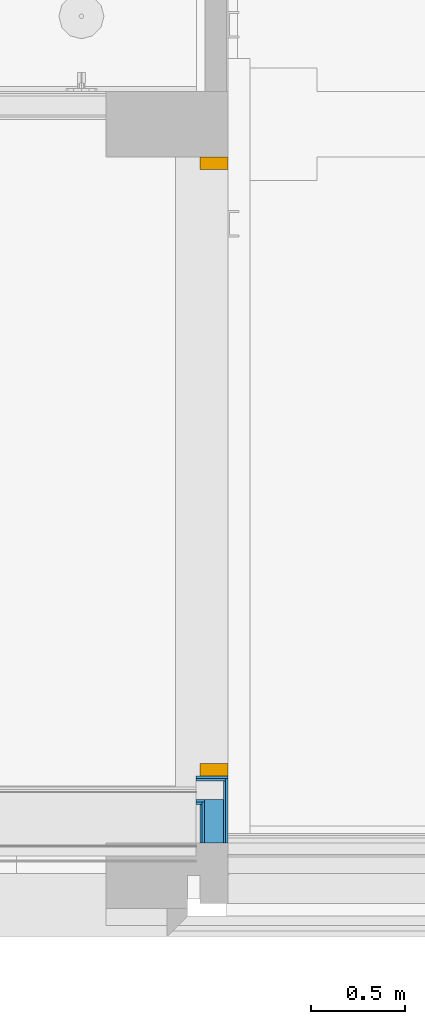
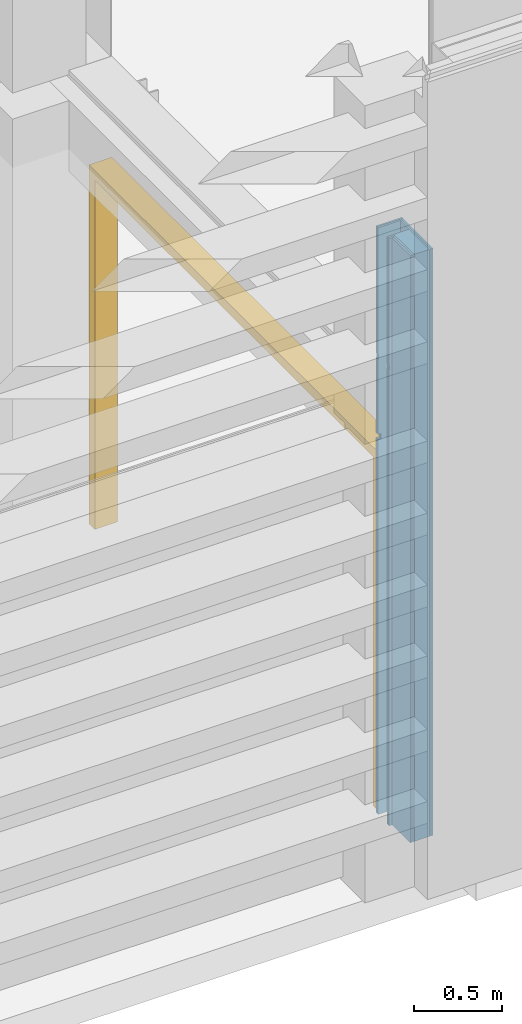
# One storey, part 77 of 109: 9 building element parts, 1 door, 1 opening, 2 elements without a shape of their own.
"""IFC2X3 building model written with IfcOpenShell, lengths in millimetres."""

from ifc_helpers import new_model, entity, si_unit, converted_unit, derived_unit, money_unit, direction, frame, origin_with_axes, place, context, subcontext, project, spatial, faceted_brep, material, type_object, element, fill, aggregate, save


model = new_model("IFC2X3")

# Units and contexts
model_context = context("Model", 3, precision=0.01, world=origin_with_axes(), true_north=direction((0.0, 1.0)))
body_context = subcontext(model_context, "Body", "Model", "MODEL_VIEW")
ifc_project = project(units=[si_unit("LENGTHUNIT", "METRE", prefix="MILLI"), si_unit("AREAUNIT", "SQUARE_METRE"), si_unit("VOLUMEUNIT", "CUBIC_METRE"), converted_unit("PLANEANGLEUNIT", "DEGREE", entity("IfcPlaneAngleMeasure", 0.0174532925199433), si_unit("PLANEANGLEUNIT", "RADIAN"), dimensions=[0, 0, 0, 0, 0, 0, 0]), money_unit("EUR"), converted_unit("TIMEUNIT", "Year", entity("IfcTimeMeasure", 31557600.0), si_unit("TIMEUNIT", "SECOND"), dimensions=[0, 0, 1, 0, 0, 0, 0]), si_unit("MASSUNIT", "GRAM", prefix="KILO"), si_unit("THERMODYNAMICTEMPERATUREUNIT", "DEGREE_CELSIUS"), si_unit("LUMINOUSINTENSITYUNIT", "LUMEN"), si_unit("ENERGYUNIT", "JOULE", prefix="MEGA"), derived_unit("THERMALCONDUCTANCEUNIT", [(si_unit("POWERUNIT", "WATT"), 1), (si_unit("LENGTHUNIT", "METRE"), -1), (si_unit("THERMODYNAMICTEMPERATUREUNIT", "KELVIN"), -1)]), derived_unit("SPECIFICHEATCAPACITYUNIT", [(si_unit("ENERGYUNIT", "JOULE"), 1), (si_unit("MASSUNIT", "GRAM", prefix="KILO"), -1), (si_unit("THERMODYNAMICTEMPERATUREUNIT", "KELVIN"), -1)]), derived_unit("MASSDENSITYUNIT", [(si_unit("MASSUNIT", "GRAM", prefix="KILO"), 1), (si_unit("VOLUMEUNIT", "CUBIC_METRE"), -1)])], contexts=[model_context])

# Site, building, storey
site_placement = place(None, origin_with_axes())
site = spatial("IfcSite", under=ifc_project, at=site_placement, Name="<site naam>", CompositionType="ELEMENT")
building_placement = place(site_placement, origin_with_axes())
building = spatial("IfcBuilding", under=site, at=building_placement, Name="<Naam gebouw>", CompositionType="ELEMENT")
storey_placement = place(building_placement, origin_with_axes())
storey = spatial("IfcBuildingStorey", under=building, at=storey_placement, Name="00 Begane grond", CompositionType="ELEMENT", Elevation=0.0)

# Door
door_style = type_object("IfcDoorStyle", Name="D1 27", ConstructionType="NOTDEFINED", OperationType="NOTDEFINED", ParameterTakesPrecedence=False, Sizeable=False)
wall_2_placement = place(storey_placement, frame((58325.00000000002, 530.0000000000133, 0.0), z_axis=(0.0, 0.0, 1.0), x_axis=(0.0, -1.0, 0.0)))
opening_placement = place(wall_2_placement, frame((-1647.5, 0.0, 0.0), z_axis=(0.0, 0.0, 1.0), x_axis=(1.0, 0.0, 0.0)))
door_placement = place(opening_placement, frame((-1580.5, 0.0, 0.0), z_axis=(0.0, 0.0, 1.0), x_axis=(1.0, 0.0, 0.0)))
door = element("IfcDoor", 1, at=door_placement, inside=storey, type_object=door_style, Name="22_BI-H-03_305", ObjectType="DOOR", OverallHeight=2487.5, OverallWidth=3295.0, context=body_context, shape_type="Brep", body=[
    faceted_brep([(3228.000000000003, 0.0, 0.0), (3228.0, -150.0000000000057, 0.0), (3161.0, -149.9999999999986, 0.0), (3161.000000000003, 0.0, 0.0), (3228.000000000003, 0.0, 2420.5), (3228.0, -150.0000000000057, 2420.5), (3161.0, -149.9999999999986, 2420.5), (3161.000000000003, 0.0, 2420.5)], [[[0, 1, 2, 3]], [[4, 5, 1, 0]], [[1, 5, 6, 2]], [[3, 2, 6, 7]], [[0, 3, 7, 4]], [[7, 6, 5, 4]]]),
    faceted_brep([(-66.9999999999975, 0.0, 0.0), (-67.00000000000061, -149.9999999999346, 0.0), (-67.00000000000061, -149.9999999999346, 2420.5), (-66.9999999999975, 0.0, 2420.5), (0.0, 0.0, 0.0), (0.0, -149.9999999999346, 0.0), (0.0, -149.9999999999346, 2420.5), (0.0, 0.0, 2420.5)], [[[0, 1, 2, 3]], [[4, 5, 1, 0]], [[1, 5, 6, 2]], [[3, 2, 6, 7]], [[0, 3, 7, 4]], [[7, 6, 5, 4]]]),
    faceted_brep([(3228.000000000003, 0.0, 2487.5), (3228.0, -150.0000000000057, 2487.5), (3228.0, -150.0000000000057, 2420.5), (3228.000000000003, 0.0, 2420.5), (-66.9999999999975, 0.0, 2487.5), (-67.00000000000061, -149.9999999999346, 2487.5), (-67.00000000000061, -149.9999999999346, 2420.5), (0.0, -149.9999999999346, 2420.5), (3161.0, -149.9999999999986, 2420.5), (3161.000000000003, 0.0, 2420.5), (0.0, 0.0, 2420.5), (-66.9999999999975, 0.0, 2420.5)], [[[0, 1, 2, 3]], [[4, 5, 1, 0]], [[1, 5, 6, 7, 8, 2]], [[3, 2, 8, 9]], [[0, 3, 9, 10, 11, 4]], [[11, 6, 5, 4]], [[10, 7, 6, 11]], [[9, 8, 7, 10]]]),
])

# Wall, building element parts
wall_type = type_object("IfcWallType", Name="MS-01 GF 150 ECO DGS/2.100.2.A 150", PredefinedType="NOTDEFINED")
wall_1_placement = place(storey_placement, frame((58155.00000000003, 530.0000000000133, 0.0), z_axis=(0.0, 0.0, 1.0), x_axis=(1.0, 0.0, 0.0)))
wall_1 = element("IfcWall", 2, at=wall_1_placement, inside=storey, type_object=wall_type, Name="22_Binnenwand_MS-01")
ifc_material_1 = material(Name="gipsplaat")
building_element_part_1_placement = place(wall_1_placement, origin_with_axes())
building_element_part_1 = element("IfcBuildingElementPart", 3, at=building_element_part_1_placement, material=ifc_material_1, Name="gipsplaat", context=body_context, shape_type="Brep", body=[
    faceted_brep([(0.0, -12.49999999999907, 3158.0), (2.782910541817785, -12.50000000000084, 3158.0), (2.782844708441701, -12.50000000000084, 3191.0), (0.0, -12.49999999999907, 3191.0), (0.0, -12.49999999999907, 4070.0), (157.4999999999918, -12.49999999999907, 4070.0), (157.4999999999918, -12.50000000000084, 3.000000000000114), (0.0, -12.50000000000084, 3.000000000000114), (0.0, -12.49999999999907, 2600.0), (19.99999999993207, -12.50000000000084, 2600.0), (19.99999999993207, -12.50000000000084, 2640.0), (0.0, -12.49999999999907, 2640.0), (0.0, -25.00000000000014, 3158.0), (2.782910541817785, -25.00000000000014, 3158.0), (2.782844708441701, -25.00000000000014, 3191.0), (0.0, -25.00000000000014, 3191.0), (0.0, -25.00000000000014, 4070.0), (157.4999999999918, -25.00000000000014, 4070.0), (157.4999999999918, -25.00000000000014, 3.000000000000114), (0.0, -25.00000000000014, 3.000000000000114), (0.0, -25.00000000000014, 2600.0), (19.99999999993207, -25.00000000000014, 2600.0), (19.99999999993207, -25.00000000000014, 2640.0), (0.0, -25.00000000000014, 2640.0)], [[[0, 1, 2, 3, 4, 5, 6, 7, 8, 9, 10, 11]], [[1, 0, 12, 13]], [[2, 1, 13, 14]], [[3, 2, 14, 15]], [[3, 15, 16, 4]], [[17, 5, 4, 16]], [[18, 6, 5, 17]], [[7, 6, 18, 19]], [[20, 8, 7, 19]], [[9, 8, 20, 21]], [[10, 9, 21, 22]], [[11, 10, 22, 23]], [[12, 0, 11, 23]], [[13, 12, 23, 22, 21, 20, 19, 18, 17, 16, 15, 14]]]),
])
building_element_part_2_placement = place(wall_1_placement, origin_with_axes())
building_element_part_2 = element("IfcBuildingElementPart", 4, at=building_element_part_2_placement, material=ifc_material_1, Name="gipsplaat", context=body_context, shape_type="Brep", body=[
    faceted_brep([(0.0, -124.9999999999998, 3158.0), (2.782910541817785, -124.9999999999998, 3158.0), (2.782844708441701, -124.9999999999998, 3191.0), (0.0, -124.9999999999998, 3191.0), (0.0, -124.9999999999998, 4070.0), (44.9999999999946, -124.9999999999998, 4070.0), (44.9999999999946, -124.9999999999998, 0.0), (0.0, -124.9999999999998, 0.0), (0.0, -137.4999999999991, 3158.0), (2.782910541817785, -137.4999999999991, 3158.0), (2.782844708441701, -137.4999999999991, 3191.0), (0.0, -137.4999999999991, 3191.0), (0.0, -137.4999999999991, 4070.0), (44.9999999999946, -137.4999999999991, 4070.0), (44.9999999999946, -137.5000000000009, 0.0), (0.0, -137.5000000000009, 0.0)], [[[0, 1, 2, 3, 4, 5, 6, 7]], [[1, 0, 8, 9]], [[2, 1, 9, 10]], [[3, 2, 10, 11]], [[3, 11, 12, 4]], [[13, 5, 4, 12]], [[5, 13, 14, 6]], [[6, 14, 15, 7]], [[8, 0, 7, 15]], [[9, 8, 15, 14, 13, 12, 11, 10]]]),
])

# Wall, opening
wall_2 = element("IfcWall", 5, at=wall_2_placement, inside=storey, type_object=wall_type, Name="22_Binnenwand_MS-01")
opening = element("IfcOpeningElement", 6, at=opening_placement, cuts=wall_2, Name="22_BI-H-03_305", context=body_context, shape_type="Brep", body=[
    faceted_brep([(-1647.500000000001, -150.9999999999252, 2487.5), (-1647.500000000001, -150.9999999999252, 0.0), (1647.5, -150.9999999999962, 0.0), (1647.5, -150.9999999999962, 2487.5), (-1647.499999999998, 1.000000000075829, 2487.5), (-1647.499999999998, 1.000000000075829, 0.0), (1647.500000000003, 1.000000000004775, 0.0), (1647.500000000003, 1.000000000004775, 2487.5)], [[[0, 1, 2, 3]], [[4, 5, 1, 0]], [[5, 6, 2, 1]], [[6, 7, 3, 2]], [[7, 4, 0, 3]], [[6, 5, 4, 7]]]),
])

fill(opening, door)

# Building element part
building_element_part_3_placement = place(wall_2_placement, origin_with_axes())
building_element_part_3 = element("IfcBuildingElementPart", 7, at=building_element_part_3_placement, material=ifc_material_1, Name="gipsplaat", context=body_context, shape_type="Brep", body=[
    faceted_brep([(51.99999999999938, 3.811827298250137e-05, 0.0), (51.99999999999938, 3.811827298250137e-05, 3.000000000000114), (12.50000000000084, 0.0, 3.000000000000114), (12.50000000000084, 0.0, 4070.0), (355.0000000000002, 0.0, 4070.0), (355.0000000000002, 0.0, 0.0), (51.9999999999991, -12.50000000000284, 0.0), (51.9999999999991, -12.50000000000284, 3.000000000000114), (12.50000000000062, -12.50000000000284, 3.000000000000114), (12.50000000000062, -12.50000000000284, 4070.0), (355.0, -12.50000000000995, 4070.0), (355.0, -12.50000000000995, 0.0)], [[[0, 1, 2, 3, 4, 5]], [[1, 0, 6, 7]], [[8, 2, 1, 7]], [[2, 8, 9, 3]], [[9, 10, 4, 3]], [[4, 10, 11, 5]], [[6, 0, 5, 11]], [[7, 6, 11, 10, 9, 8]]]),
])

building_element_part_4_placement = place(wall_1_placement, origin_with_axes())
building_element_part_4 = element("IfcBuildingElementPart", 8, at=building_element_part_4_placement, material=ifc_material_1, Name="gipsplaat", context=body_context, shape_type="Brep", body=[
    faceted_brep([(0.0, -137.4999999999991, 3158.0), (2.782910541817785, -137.5000000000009, 3158.0), (2.782844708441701, -137.5000000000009, 3191.0), (0.0, -137.4999999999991, 3191.0), (0.0, -137.4999999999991, 4070.0), (32.49999999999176, -137.4999999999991, 4070.0), (32.49999999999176, -137.5000000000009, 0.0), (0.0, -137.5000000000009, 0.0), (0.0, -150.0000000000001, 3158.0), (2.782910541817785, -150.0000000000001, 3158.0), (2.782844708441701, -150.0000000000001, 3191.0), (0.0, -150.0000000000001, 3191.0), (0.0, -150.0000000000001, 4070.0), (32.49999999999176, -150.0000000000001, 4070.0), (32.49999999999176, -150.0000000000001, 0.0), (0.0, -150.0000000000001, 0.0)], [[[0, 1, 2, 3, 4, 5, 6, 7]], [[1, 0, 8, 9]], [[2, 1, 9, 10]], [[3, 2, 10, 11]], [[3, 11, 12, 4]], [[13, 5, 4, 12]], [[5, 13, 14, 6]], [[6, 14, 15, 7]], [[8, 0, 7, 15]], [[9, 8, 15, 14, 13, 12, 11, 10]]]),
])

ifc_material_2 = material(Name="isolatie_steenwol LSW")
building_element_part_5_placement = place(wall_2_placement, origin_with_axes())
building_element_part_5 = element("IfcBuildingElementPart", 9, at=building_element_part_5_placement, material=ifc_material_2, Name="isolatie_steenwol LSW", context=body_context, shape_type="Brep", body=[
    faceted_brep([(124.9999999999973, -125.0, 4070.0), (354.9999999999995, -125.0000000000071, 4070.0), (355.0000000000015, -25.00000000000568, 4070.0), (124.9999999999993, -24.99999999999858, 4070.0), (124.9999999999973, -125.0, 0.0), (354.9999999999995, -125.0000000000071, 0.0), (355.0000000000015, -25.00000000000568, 0.0), (124.9999999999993, -24.99999999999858, 0.0)], [[[0, 1, 2, 3]], [[4, 5, 1, 0]], [[2, 1, 5, 6]], [[3, 2, 6, 7]], [[4, 0, 3, 7]], [[7, 6, 5, 4]]]),
])

building_element_part_6_placement = place(wall_2_placement, origin_with_axes())
building_element_part_6 = element("IfcBuildingElementPart", 10, at=building_element_part_6_placement, material=ifc_material_1, Name="gipsplaat", context=body_context, shape_type="Brep", body=[
    faceted_brep([(51.9999999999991, -12.50000000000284, 0.0), (51.9999999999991, -12.50000000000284, 3.000000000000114), (24.99999999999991, -12.50000000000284, 3.000000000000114), (24.99999999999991, -12.50000000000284, 4070.0), (355.0, -12.50000000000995, 4070.0), (355.0, -12.50000000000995, 0.0), (51.99999999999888, -24.99999999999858, 0.0), (51.99999999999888, -24.99999999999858, 3.000000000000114), (24.99999999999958, -24.99999999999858, 3.000000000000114), (24.99999999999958, -24.99999999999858, 4070.0), (354.9999999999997, -25.00000000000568, 4070.0), (354.9999999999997, -25.00000000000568, 0.0)], [[[0, 1, 2, 3, 4, 5]], [[1, 0, 6, 7]], [[8, 2, 1, 7]], [[2, 8, 9, 3]], [[9, 10, 4, 3]], [[4, 10, 11, 5]], [[6, 0, 5, 11]], [[7, 6, 11, 10, 9, 8]]]),
])

building_element_part_7_placement = place(wall_2_placement, origin_with_axes())
building_element_part_7 = element("IfcBuildingElementPart", 11, at=building_element_part_7_placement, material=ifc_material_1, Name="gipsplaat", context=body_context, shape_type="Brep", body=[
    faceted_brep([(137.4999999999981, -137.5000000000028, 4070.0), (354.9999999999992, -137.5000000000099, 4070.0), (354.9999999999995, -125.0000000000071, 4070.0), (137.4999999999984, -125.0, 4070.0), (137.4999999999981, -137.5000000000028, 0.0), (354.9999999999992, -137.5000000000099, 0.0), (354.9999999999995, -125.0000000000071, 0.0), (137.4999999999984, -125.0, 0.0)], [[[0, 1, 2, 3]], [[4, 5, 1, 0]], [[2, 1, 5, 6]], [[3, 2, 6, 7]], [[4, 0, 3, 7]], [[7, 6, 5, 4]]]),
])

building_element_part_8_placement = place(wall_2_placement, origin_with_axes())
building_element_part_8 = element("IfcBuildingElementPart", 12, at=building_element_part_8_placement, material=ifc_material_1, Name="gipsplaat", context=body_context, shape_type="Brep", body=[
    faceted_brep([(149.9999999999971, -149.9999999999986, 4070.0), (354.999999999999, -150.0000000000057, 4070.0), (354.9999999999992, -137.5000000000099, 4070.0), (149.9999999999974, -137.5000000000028, 4070.0), (149.9999999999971, -149.9999999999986, 0.0), (354.999999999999, -150.0000000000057, 0.0), (354.9999999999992, -137.5000000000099, 0.0), (149.9999999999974, -137.5000000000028, 0.0)], [[[0, 1, 2, 3]], [[4, 5, 1, 0]], [[2, 1, 5, 6]], [[3, 2, 6, 7]], [[4, 0, 3, 7]], [[7, 6, 5, 4]]]),
])

aggregate(wall_2, [building_element_part_3, building_element_part_5, building_element_part_6, building_element_part_7, building_element_part_8])

building_element_part_9_placement = place(wall_1_placement, origin_with_axes())
building_element_part_9 = element("IfcBuildingElementPart", 13, at=building_element_part_9_placement, material=ifc_material_1, Name="gipsplaat", context=body_context, shape_type="Brep", body=[
    faceted_brep([(0.0, 0.0, 3158.0), (2.782910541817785, 0.0, 3158.0), (2.782910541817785, 0.0, 3188.0), (2.782844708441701, 0.0, 3191.0), (0.0, 0.0, 3191.0), (0.0, 0.0, 4070.0), (169.9999999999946, 0.0, 4070.0), (169.9999999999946, 0.0, 3.000000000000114), (0.0, 0.0, 3.000000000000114), (0.0, 0.0, 2600.0), (19.99999999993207, 0.0, 2600.0), (19.99999999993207, 0.0, 2640.0), (0.0, 0.0, 2640.0), (0.0, -12.49999999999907, 3158.0), (2.782910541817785, -12.49999999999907, 3158.0), (2.782910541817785, -12.49999999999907, 3188.0), (2.782844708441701, -12.49999999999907, 3191.0), (0.0, -12.49999999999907, 3191.0), (0.0, -12.49999999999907, 4070.0), (169.9999999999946, -12.49999999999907, 4070.0), (169.9999999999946, -12.50000000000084, 3.000000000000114), (0.0, -12.50000000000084, 3.000000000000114), (0.0, -12.49999999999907, 2600.0), (19.99999999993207, -12.49999999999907, 2600.0), (19.99999999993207, -12.49999999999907, 2640.0), (0.0, -12.49999999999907, 2640.0)], [[[0, 1, 2, 3, 4, 5, 6, 7, 8, 9, 10, 11, 12]], [[1, 0, 13, 14]], [[15, 2, 1, 14]], [[2, 15, 16, 3]], [[4, 3, 16, 17]], [[4, 17, 18, 5]], [[19, 6, 5, 18]], [[20, 7, 6, 19]], [[8, 7, 20, 21]], [[22, 9, 8, 21]], [[10, 9, 22, 23]], [[11, 10, 23, 24]], [[12, 11, 24, 25]], [[13, 0, 12, 25]], [[14, 13, 25, 24, 23, 22, 21, 20, 19, 18, 17, 16, 15]]]),
])

aggregate(wall_1, [building_element_part_1, building_element_part_2, building_element_part_4, building_element_part_9])

save(model, "model.ifc")
